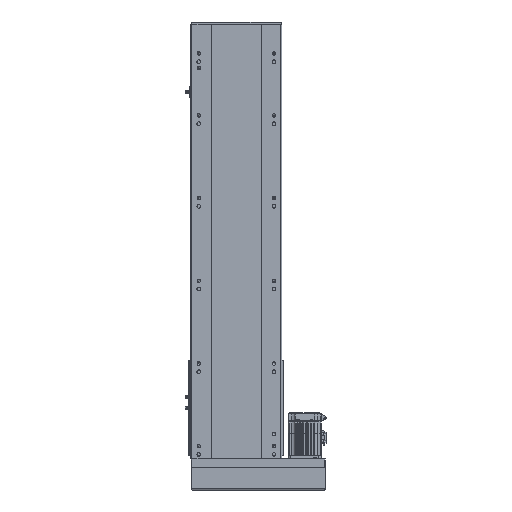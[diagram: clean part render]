
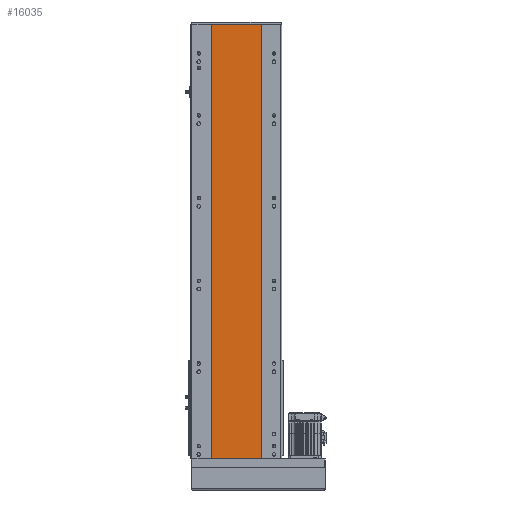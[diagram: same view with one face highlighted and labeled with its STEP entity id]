
A CAD part, front view. The second image highlights one B-rep face of the part: STEP entity #16035.
In plain terms, the highlighted planar face has unit normal (0, -1, 0).
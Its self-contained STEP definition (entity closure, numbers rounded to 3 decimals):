
#195 = EDGE_CURVE ( 'NONE', #31570, #4181, #37364, .T. ) ;
#459 = LINE ( 'NONE', #17155, #31662 ) ;
#600 = DIRECTION ( 'NONE',  ( 0., 1., 0. ) ) ;
#3287 = CARTESIAN_POINT ( 'NONE',  ( 551.58, 155.016, 1051. ) ) ;
#3737 = VECTOR ( 'NONE', #27511, 1000. ) ;
#4181 = VERTEX_POINT ( 'NONE', #10008 ) ;
#4638 = VECTOR ( 'NONE', #30479, 1000. ) ;
#6299 = CARTESIAN_POINT ( 'NONE',  ( 0., 155.016, 1051. ) ) ;
#6799 = LINE ( 'NONE', #14152, #3737 ) ;
#6948 = ORIENTED_EDGE ( 'NONE', *, *, #195, .F. ) ;
#7328 = ORIENTED_EDGE ( 'NONE', *, *, #9605, .T. ) ;
#9605 = EDGE_CURVE ( 'NONE', #16863, #4181, #6799, .T. ) ;
#10008 = CARTESIAN_POINT ( 'NONE',  ( 551.58, 155.016, 0. ) ) ;
#14043 = DIRECTION ( 'NONE',  ( 0., 0., -1. ) ) ;
#14152 = CARTESIAN_POINT ( 'NONE',  ( 0., 155.016, 0. ) ) ;
#14841 = FACE_OUTER_BOUND ( 'NONE', #29095, .T. ) ;
#16035 = ADVANCED_FACE ( 'NONE', ( #14841 ), #41117, .F. ) ;
#16863 = VERTEX_POINT ( 'NONE', #22523 ) ;
#17155 = CARTESIAN_POINT ( 'NONE',  ( 432.408, 155.016, 1051. ) ) ;
#18170 = CARTESIAN_POINT ( 'NONE',  ( 0., 155.016, 1051. ) ) ;
#18409 = VERTEX_POINT ( 'NONE', #40945 ) ;
#19874 = LINE ( 'NONE', #6299, #39817 ) ;
#20794 = ORIENTED_EDGE ( 'NONE', *, *, #35457, .T. ) ;
#22523 = CARTESIAN_POINT ( 'NONE',  ( 432.408, 155.016, 0. ) ) ;
#22641 = AXIS2_PLACEMENT_3D ( 'NONE', #18170, #600, #28426 ) ;
#27511 = DIRECTION ( 'NONE',  ( 1., 0., 0. ) ) ;
#28426 = DIRECTION ( 'NONE',  ( 0., 0., 1. ) ) ;
#29095 = EDGE_LOOP ( 'NONE', ( #7328, #6948, #30142, #20794 ) ) ;
#30139 = DIRECTION ( 'NONE',  ( 1., 0., 0. ) ) ;
#30142 = ORIENTED_EDGE ( 'NONE', *, *, #32202, .F. ) ;
#30479 = DIRECTION ( 'NONE',  ( 0., 0., -1. ) ) ;
#31570 = VERTEX_POINT ( 'NONE', #37026 ) ;
#31662 = VECTOR ( 'NONE', #14043, 1000. ) ;
#32202 = EDGE_CURVE ( 'NONE', #18409, #31570, #19874, .T. ) ;
#35457 = EDGE_CURVE ( 'NONE', #18409, #16863, #459, .T. ) ;
#37026 = CARTESIAN_POINT ( 'NONE',  ( 551.58, 155.016, 1051. ) ) ;
#37364 = LINE ( 'NONE', #3287, #4638 ) ;
#39817 = VECTOR ( 'NONE', #30139, 1000. ) ;
#40945 = CARTESIAN_POINT ( 'NONE',  ( 432.408, 155.016, 1051. ) ) ;
#41117 = PLANE ( 'NONE',  #22641 ) ;
